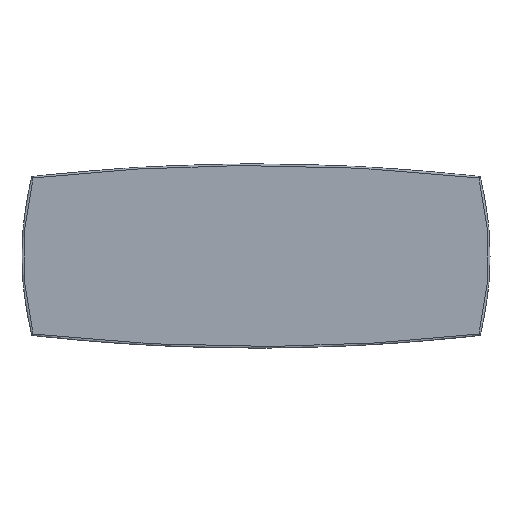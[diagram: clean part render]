
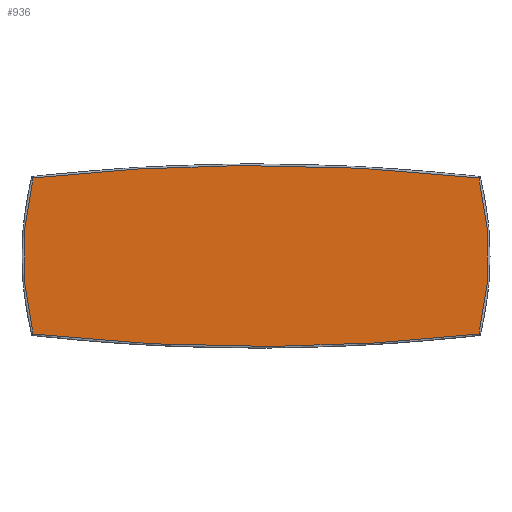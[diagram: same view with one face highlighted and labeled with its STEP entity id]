
A CAD part, top view. The second image highlights one B-rep face of the part: STEP entity #936.
In plain terms, the highlighted planar face has unit normal (0, 0, 1).
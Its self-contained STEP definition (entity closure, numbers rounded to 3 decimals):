
#936=ADVANCED_FACE('',(#1464),#6794,.T.);
#1464=FACE_OUTER_BOUND('',#1992,.T.);
#1992=EDGE_LOOP('',(#2572,#2573,#2574,#2575));
#2572=ORIENTED_EDGE('',*,*,#4746,.T.);
#2573=ORIENTED_EDGE('',*,*,#4749,.T.);
#2574=ORIENTED_EDGE('',*,*,#4740,.T.);
#2575=ORIENTED_EDGE('',*,*,#4743,.T.);
#4740=EDGE_CURVE('',#6157,#6156,#5826,.T.);
#4743=EDGE_CURVE('',#6156,#6154,#5829,.T.);
#4746=EDGE_CURVE('',#6154,#6155,#5832,.T.);
#4749=EDGE_CURVE('',#6155,#6157,#5835,.T.);
#5826=(
BOUNDED_CURVE()
B_SPLINE_CURVE(2,(#8324,#8325,#8326),.UNSPECIFIED.,.F.,.F.)
B_SPLINE_CURVE_WITH_KNOTS((3,3),(6.903,1017.329),
 .UNSPECIFIED.)
CURVE()
GEOMETRIC_REPRESENTATION_ITEM()
RATIONAL_B_SPLINE_CURVE((1.,0.97,1.))
REPRESENTATION_ITEM('')
);
#5829=(
BOUNDED_CURVE()
B_SPLINE_CURVE(2,(#8333,#8334,#8335),.UNSPECIFIED.,.F.,.F.)
B_SPLINE_CURVE_WITH_KNOTS((3,3),(6.917,2868.993),
 .UNSPECIFIED.)
CURVE()
GEOMETRIC_REPRESENTATION_ITEM()
RATIONAL_B_SPLINE_CURVE((1.,0.994,1.))
REPRESENTATION_ITEM('')
);
#5832=(
BOUNDED_CURVE()
B_SPLINE_CURVE(2,(#8342,#8343,#8344),.UNSPECIFIED.,.F.,.F.)
B_SPLINE_CURVE_WITH_KNOTS((3,3),(6.903,1017.329),
 .UNSPECIFIED.)
CURVE()
GEOMETRIC_REPRESENTATION_ITEM()
RATIONAL_B_SPLINE_CURVE((1.,0.97,1.))
REPRESENTATION_ITEM('')
);
#5835=(
BOUNDED_CURVE()
B_SPLINE_CURVE(2,(#8351,#8352,#8353),.UNSPECIFIED.,.F.,.F.)
B_SPLINE_CURVE_WITH_KNOTS((3,3),(6.917,2868.993),
 .UNSPECIFIED.)
CURVE()
GEOMETRIC_REPRESENTATION_ITEM()
RATIONAL_B_SPLINE_CURVE((1.,0.994,1.))
REPRESENTATION_ITEM('')
);
#6154=VERTEX_POINT('',#8274);
#6155=VERTEX_POINT('',#8275);
#6156=VERTEX_POINT('',#8276);
#6157=VERTEX_POINT('',#8277);
#6794=PLANE('',#7374);
#7374=AXIS2_PLACEMENT_3D('',#8072,#7711,$);
#7711=DIRECTION('',(0.,0.,1.));
#8072=CARTESIAN_POINT('',(-2862.576,-888.317,745.026));
#8274=CARTESIAN_POINT('',(440.484,-650.932,745.026));
#8275=CARTESIAN_POINT('',(440.484,349.298,745.026));
#8276=CARTESIAN_POINT('',(-2415.637,-650.932,745.026));
#8277=CARTESIAN_POINT('',(-2415.637,349.298,745.026));
#8324=CARTESIAN_POINT('',(-2415.637,349.298,745.026));
#8325=CARTESIAN_POINT('',(-2541.445,-150.817,745.026));
#8326=CARTESIAN_POINT('',(-2415.637,-650.932,745.026));
#8333=CARTESIAN_POINT('',(-2415.637,-650.932,745.026));
#8334=CARTESIAN_POINT('',(-987.576,-811.204,745.026));
#8335=CARTESIAN_POINT('',(440.484,-650.932,745.026));
#8342=CARTESIAN_POINT('',(440.484,-650.932,745.026));
#8343=CARTESIAN_POINT('',(566.293,-150.817,745.026));
#8344=CARTESIAN_POINT('',(440.484,349.298,745.026));
#8351=CARTESIAN_POINT('',(440.484,349.298,745.026));
#8352=CARTESIAN_POINT('',(-987.576,509.57,745.026));
#8353=CARTESIAN_POINT('',(-2415.637,349.298,745.026));
